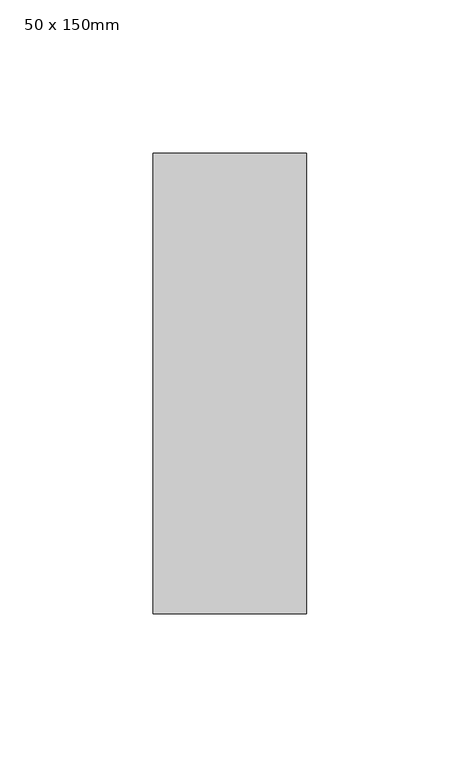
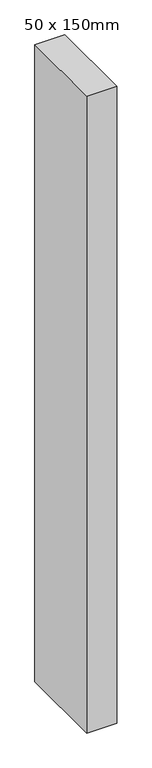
"""IFC4 building model written with IfcOpenShell, lengths in millimetres: member geometry, 矩形竖梃 : 50 x 150mm."""

from ifc_helpers import new_model, si_unit, frame, origin, place, context, project, spatial, polyline, outline, extrude, source, transform, mapped, element, save


def member_50_x_150mm_60451361(model_context):
    return source(origin(), model_context, "Body", "SweptSolid", [
        extrude(outline(polyline([(0.0, 75.0), (0.0, -75.0), (-50.0, -75.0), (-50.0, 75.0), (0.0, 75.0)])), frame((0.0, 0.0, -1125.0), z_axis=(0.0, 0.0, 1.0), x_axis=(1.0, 0.0, 0.0)), (0.0, 0.0, 1.0), 1125.0),
    ])


if __name__ == "__main__":
    model = new_model("IFC4")
    model_context = context("Model", 3, world=origin())
    ifc_project = project(units=[si_unit("LENGTHUNIT", "METRE", prefix="MILLI")], contexts=[model_context])
    site = spatial("IfcSite", under=ifc_project)
    building = spatial("IfcBuilding", under=site)
    placement = place(None, origin())
    member_50_x_150mm_shape = member_50_x_150mm_60451361(model_context)
    element("IfcMember", 1, ObjectType="矩形竖梃 : 50 x 150mm", at=placement, inside=building, context=model_context, shape_type="MappedRepresentation", body=[
        mapped(member_50_x_150mm_shape, transform((0.0, 0.0, 0.0), x_axis=(1.0, 0.0, 0.0), y_axis=(0.0, 1.0, 0.0), z_axis=(0.0, 0.0, 1.0))),
    ])
    save(model, "model.ifc")
